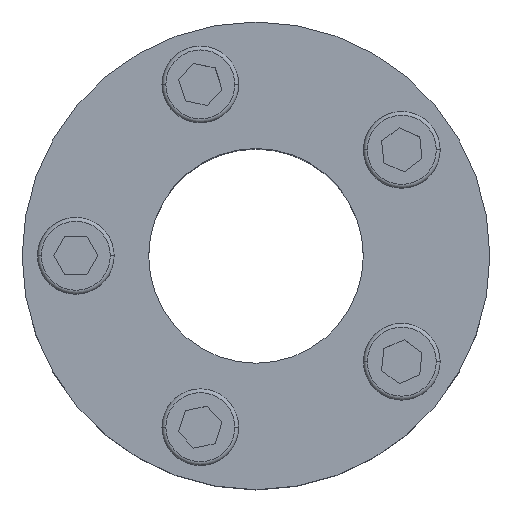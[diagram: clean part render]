
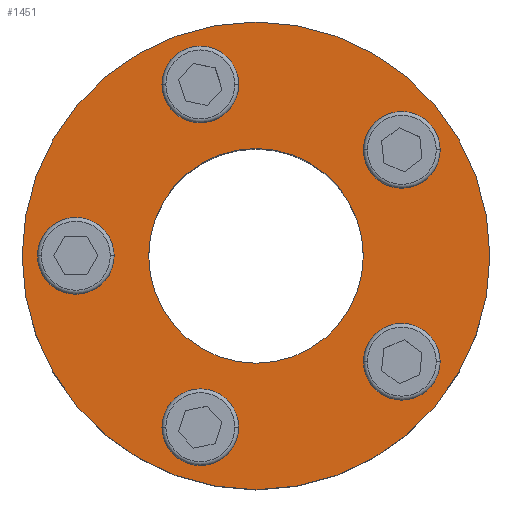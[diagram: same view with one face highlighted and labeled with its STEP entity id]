
A CAD part, top view. The second image highlights one B-rep face of the part: STEP entity #1451.
In plain terms, the highlighted planar face has unit normal (0, 0, 1).
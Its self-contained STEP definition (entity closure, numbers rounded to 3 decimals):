
#19 = DIRECTION ( 'NONE',  ( 0., 0., 1. ) ) ;
#38 = DIRECTION ( 'NONE',  ( 0., 0., 1. ) ) ;
#43 = AXIS2_PLACEMENT_3D ( 'NONE', #2025, #818, #1405 ) ;
#54 = DIRECTION ( 'NONE',  ( 0., 0., 1. ) ) ;
#65 = CARTESIAN_POINT ( 'NONE',  ( -28.5, 0., 0. ) ) ;
#69 = CIRCLE ( 'NONE', #689, 5. ) ;
#77 = DIRECTION ( 'NONE',  ( -1., 0., 0. ) ) ;
#78 = ORIENTED_EDGE ( 'NONE', *, *, #1497, .T. ) ;
#84 = EDGE_LOOP ( 'NONE', ( #386, #1144 ) ) ;
#97 = CARTESIAN_POINT ( 'NONE',  ( 0., 0., 0. ) ) ;
#121 = VERTEX_POINT ( 'NONE', #65 ) ;
#151 = AXIS2_PLACEMENT_3D ( 'NONE', #1714, #961, #1110 ) ;
#152 = VERTEX_POINT ( 'NONE', #262 ) ;
#169 = AXIS2_PLACEMENT_3D ( 'NONE', #1353, #1662, #608 ) ;
#172 = DIRECTION ( 'NONE',  ( 0., 0., -1. ) ) ;
#231 = AXIS2_PLACEMENT_3D ( 'NONE', #1755, #54, #1921 ) ;
#237 = DIRECTION ( 'NONE',  ( 0., 0., 1. ) ) ;
#246 = DIRECTION ( 'NONE',  ( 1., 0., 0. ) ) ;
#255 = EDGE_CURVE ( 'NONE', #1024, #355, #1808, .T. ) ;
#261 = FACE_BOUND ( 'NONE', #610, .T. ) ;
#262 = CARTESIAN_POINT ( 'NONE',  ( -2.262, -22.35, 0. ) ) ;
#280 = EDGE_CURVE ( 'NONE', #444, #523, #1074, .T. ) ;
#303 = CARTESIAN_POINT ( 'NONE',  ( -7.262, -22.35, 0. ) ) ;
#311 = CARTESIAN_POINT ( 'NONE',  ( 30.5, 0., 0. ) ) ;
#324 = FACE_BOUND ( 'NONE', #1716, .T. ) ;
#355 = VERTEX_POINT ( 'NONE', #1619 ) ;
#369 = AXIS2_PLACEMENT_3D ( 'NONE', #1556, #172, #1720 ) ;
#383 = CIRCLE ( 'NONE', #1633, 5. ) ;
#386 = ORIENTED_EDGE ( 'NONE', *, *, #403, .F. ) ;
#397 = CIRCLE ( 'NONE', #1533, 5. ) ;
#401 = ORIENTED_EDGE ( 'NONE', *, *, #621, .F. ) ;
#403 = EDGE_CURVE ( 'NONE', #468, #152, #1726, .T. ) ;
#443 = ORIENTED_EDGE ( 'NONE', *, *, #1595, .F. ) ;
#444 = VERTEX_POINT ( 'NONE', #311 ) ;
#446 = CARTESIAN_POINT ( 'NONE',  ( -12.262, 22.35, 0. ) ) ;
#468 = VERTEX_POINT ( 'NONE', #1063 ) ;
#523 = VERTEX_POINT ( 'NONE', #623 ) ;
#547 = DIRECTION ( 'NONE',  ( 1., 0., 0. ) ) ;
#573 = EDGE_LOOP ( 'NONE', ( #443, #589 ) ) ;
#577 = AXIS2_PLACEMENT_3D ( 'NONE', #1937, #1320, #77 ) ;
#589 = ORIENTED_EDGE ( 'NONE', *, *, #1283, .F. ) ;
#595 = EDGE_LOOP ( 'NONE', ( #1635, #969 ) ) ;
#596 = FACE_BOUND ( 'NONE', #595, .T. ) ;
#607 = CARTESIAN_POINT ( 'NONE',  ( 19.012, -13.813, 0. ) ) ;
#608 = DIRECTION ( 'NONE',  ( -1., 0., 0. ) ) ;
#610 = EDGE_LOOP ( 'NONE', ( #1980, #1082 ) ) ;
#616 = VERTEX_POINT ( 'NONE', #650 ) ;
#621 = EDGE_CURVE ( 'NONE', #1560, #121, #1989, .T. ) ;
#623 = CARTESIAN_POINT ( 'NONE',  ( -30.5, 0., 0. ) ) ;
#632 = PLANE ( 'NONE',  #369 ) ;
#633 = ORIENTED_EDGE ( 'NONE', *, *, #1510, .F. ) ;
#644 = CARTESIAN_POINT ( 'NONE',  ( 19.012, -13.813, 0. ) ) ;
#650 = CARTESIAN_POINT ( 'NONE',  ( 24.012, 13.813, 0. ) ) ;
#666 = CARTESIAN_POINT ( 'NONE',  ( -7.262, 22.35, 0. ) ) ;
#682 = VERTEX_POINT ( 'NONE', #446 ) ;
#686 = ORIENTED_EDGE ( 'NONE', *, *, #280, .T. ) ;
#689 = AXIS2_PLACEMENT_3D ( 'NONE', #607, #1827, #1228 ) ;
#712 = VERTEX_POINT ( 'NONE', #1823 ) ;
#720 = EDGE_LOOP ( 'NONE', ( #1789, #401 ) ) ;
#738 = FACE_BOUND ( 'NONE', #84, .T. ) ;
#782 = FACE_BOUND ( 'NONE', #720, .T. ) ;
#799 = DIRECTION ( 'NONE',  ( -1., 0., 0. ) ) ;
#818 = DIRECTION ( 'NONE',  ( 0., 0., 1. ) ) ;
#835 = EDGE_LOOP ( 'NONE', ( #686, #78 ) ) ;
#868 = AXIS2_PLACEMENT_3D ( 'NONE', #666, #1784, #1957 ) ;
#872 = AXIS2_PLACEMENT_3D ( 'NONE', #97, #237, #547 ) ;
#888 = EDGE_CURVE ( 'NONE', #712, #1703, #1481, .T. ) ;
#891 = DIRECTION ( 'NONE',  ( -1., 0., 0. ) ) ;
#895 = EDGE_CURVE ( 'NONE', #152, #468, #397, .T. ) ;
#903 = VERTEX_POINT ( 'NONE', #1237 ) ;
#933 = AXIS2_PLACEMENT_3D ( 'NONE', #303, #1519, #2007 ) ;
#958 = DIRECTION ( 'NONE',  ( 0., 0., 1. ) ) ;
#961 = DIRECTION ( 'NONE',  ( 0., 0., 1. ) ) ;
#969 = ORIENTED_EDGE ( 'NONE', *, *, #1622, .F. ) ;
#994 = CIRCLE ( 'NONE', #1806, 5. ) ;
#1002 = CARTESIAN_POINT ( 'NONE',  ( 14.012, 13.813, 0. ) ) ;
#1010 = CIRCLE ( 'NONE', #868, 5. ) ;
#1024 = VERTEX_POINT ( 'NONE', #1906 ) ;
#1063 = CARTESIAN_POINT ( 'NONE',  ( -12.262, -22.35, 0. ) ) ;
#1064 = CIRCLE ( 'NONE', #231, 14. ) ;
#1074 = CIRCLE ( 'NONE', #1440, 30.5 ) ;
#1082 = ORIENTED_EDGE ( 'NONE', *, *, #888, .F. ) ;
#1110 = DIRECTION ( 'NONE',  ( 1., 0., 0. ) ) ;
#1144 = ORIENTED_EDGE ( 'NONE', *, *, #895, .F. ) ;
#1228 = DIRECTION ( 'NONE',  ( -1., 0., 0. ) ) ;
#1237 = CARTESIAN_POINT ( 'NONE',  ( -2.262, 22.35, 0. ) ) ;
#1260 = CARTESIAN_POINT ( 'NONE',  ( 14.012, -13.813, 0. ) ) ;
#1282 = DIRECTION ( 'NONE',  ( 0., 0., 1. ) ) ;
#1283 = EDGE_CURVE ( 'NONE', #616, #1809, #994, .T. ) ;
#1294 = CARTESIAN_POINT ( 'NONE',  ( -18.5, 0., 0. ) ) ;
#1320 = DIRECTION ( 'NONE',  ( 0., 0., 1. ) ) ;
#1342 = EDGE_CURVE ( 'NONE', #1703, #712, #69, .T. ) ;
#1353 = CARTESIAN_POINT ( 'NONE',  ( -23.5, 0., 0. ) ) ;
#1405 = DIRECTION ( 'NONE',  ( -1., 0., 0. ) ) ;
#1408 = EDGE_CURVE ( 'NONE', #121, #1560, #1492, .T. ) ;
#1419 = FACE_OUTER_BOUND ( 'NONE', #835, .T. ) ;
#1429 = CARTESIAN_POINT ( 'NONE',  ( 19.012, 13.813, 0. ) ) ;
#1440 = AXIS2_PLACEMENT_3D ( 'NONE', #1518, #38, #246 ) ;
#1448 = CIRCLE ( 'NONE', #151, 30.5 ) ;
#1451 = ADVANCED_FACE ( 'NONE', ( #596, #1841, #261, #738, #782, #324, #1419 ), #632, .F. ) ;
#1477 = AXIS2_PLACEMENT_3D ( 'NONE', #644, #958, #799 ) ;
#1481 = CIRCLE ( 'NONE', #1477, 5. ) ;
#1492 = CIRCLE ( 'NONE', #43, 5. ) ;
#1497 = EDGE_CURVE ( 'NONE', #523, #444, #1448, .T. ) ;
#1510 = EDGE_CURVE ( 'NONE', #355, #1024, #1064, .T. ) ;
#1518 = CARTESIAN_POINT ( 'NONE',  ( 0., 0., 0. ) ) ;
#1519 = DIRECTION ( 'NONE',  ( 0., 0., 1. ) ) ;
#1533 = AXIS2_PLACEMENT_3D ( 'NONE', #1715, #19, #1757 ) ;
#1556 = CARTESIAN_POINT ( 'NONE',  ( -14., 0., 0. ) ) ;
#1560 = VERTEX_POINT ( 'NONE', #1294 ) ;
#1580 = DIRECTION ( 'NONE',  ( -1., 0., 0. ) ) ;
#1595 = EDGE_CURVE ( 'NONE', #1809, #616, #383, .T. ) ;
#1597 = ORIENTED_EDGE ( 'NONE', *, *, #255, .F. ) ;
#1619 = CARTESIAN_POINT ( 'NONE',  ( 14., 0., 0. ) ) ;
#1622 = EDGE_CURVE ( 'NONE', #903, #682, #1998, .T. ) ;
#1633 = AXIS2_PLACEMENT_3D ( 'NONE', #1429, #1282, #1580 ) ;
#1635 = ORIENTED_EDGE ( 'NONE', *, *, #1953, .F. ) ;
#1654 = DIRECTION ( 'NONE',  ( 0., 0., 1. ) ) ;
#1662 = DIRECTION ( 'NONE',  ( 0., 0., 1. ) ) ;
#1703 = VERTEX_POINT ( 'NONE', #1260 ) ;
#1714 = CARTESIAN_POINT ( 'NONE',  ( 0., 0., 0. ) ) ;
#1715 = CARTESIAN_POINT ( 'NONE',  ( -7.262, -22.35, 0. ) ) ;
#1716 = EDGE_LOOP ( 'NONE', ( #633, #1597 ) ) ;
#1720 = DIRECTION ( 'NONE',  ( -1., 0., 0. ) ) ;
#1726 = CIRCLE ( 'NONE', #933, 5. ) ;
#1755 = CARTESIAN_POINT ( 'NONE',  ( 0., 0., 0. ) ) ;
#1757 = DIRECTION ( 'NONE',  ( -1., 0., 0. ) ) ;
#1784 = DIRECTION ( 'NONE',  ( 0., 0., 1. ) ) ;
#1789 = ORIENTED_EDGE ( 'NONE', *, *, #1408, .F. ) ;
#1806 = AXIS2_PLACEMENT_3D ( 'NONE', #1810, #1654, #891 ) ;
#1808 = CIRCLE ( 'NONE', #872, 14. ) ;
#1809 = VERTEX_POINT ( 'NONE', #1002 ) ;
#1810 = CARTESIAN_POINT ( 'NONE',  ( 19.012, 13.813, 0. ) ) ;
#1823 = CARTESIAN_POINT ( 'NONE',  ( 24.012, -13.813, 0. ) ) ;
#1827 = DIRECTION ( 'NONE',  ( 0., 0., 1. ) ) ;
#1841 = FACE_BOUND ( 'NONE', #573, .T. ) ;
#1906 = CARTESIAN_POINT ( 'NONE',  ( -14., 0., 0. ) ) ;
#1921 = DIRECTION ( 'NONE',  ( 1., 0., 0. ) ) ;
#1937 = CARTESIAN_POINT ( 'NONE',  ( -7.262, 22.35, 0. ) ) ;
#1953 = EDGE_CURVE ( 'NONE', #682, #903, #1010, .T. ) ;
#1957 = DIRECTION ( 'NONE',  ( -1., 0., 0. ) ) ;
#1980 = ORIENTED_EDGE ( 'NONE', *, *, #1342, .F. ) ;
#1989 = CIRCLE ( 'NONE', #169, 5. ) ;
#1998 = CIRCLE ( 'NONE', #577, 5. ) ;
#2007 = DIRECTION ( 'NONE',  ( -1., 0., 0. ) ) ;
#2025 = CARTESIAN_POINT ( 'NONE',  ( -23.5, 0., 0. ) ) ;
